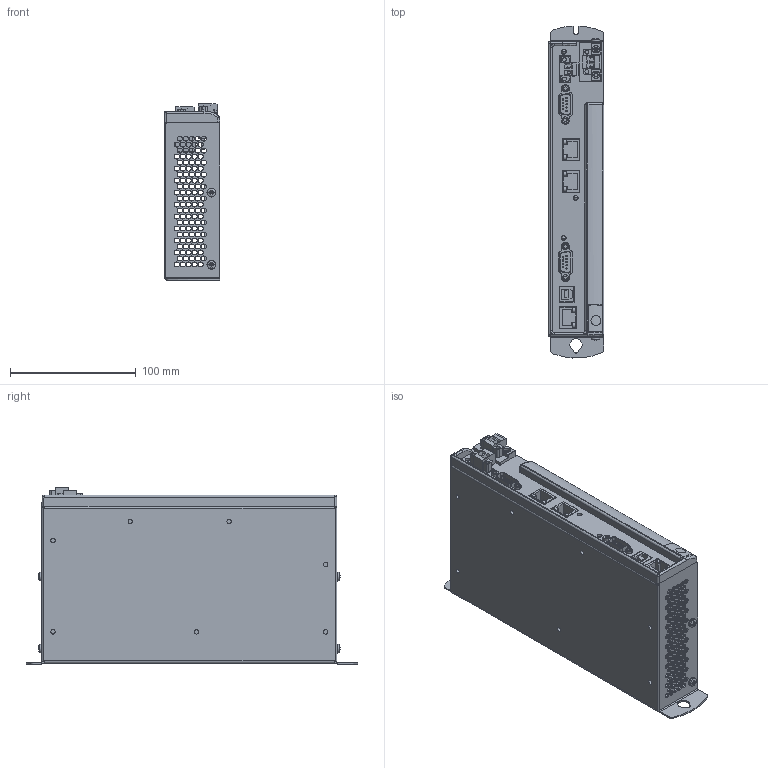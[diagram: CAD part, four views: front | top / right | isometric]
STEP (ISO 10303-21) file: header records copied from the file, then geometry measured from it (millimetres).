
FILE_DESCRIPTION((''),'2;1');
FILE_NAME('ACR9040_EPL','2007-05-01T',('JOHNB'),('Ultra Tool'),'PRO/ENGINEER BY PARAMETRIC TECHNOLOGY CORPORATION, 2005380','PRO/ENGINEER BY PARAMETRIC TECHNOLOGY CORPORATION, 2005380','');
FILE_SCHEMA(('CONFIG_CONTROL_DESIGN'));
Length unit declared in the file: inch
Products named in the file (1): ACR9040_EPL
Bounding box: 44.45 x 264.52 x 140.36 mm (x, y, z)
Volume: 175216.8 mm3; surface area: 213696.4 mm2
Topology: 12 solids, 12 shells, 1507 faces, 3991 edges, 2522 vertices
Faces by surface type: cylinder 788, plane 567, bspline 87, cone 38, sphere 27
Entity records: 61531 total; most frequent: CARTESIAN_POINT 11733, DIRECTION 8160, ORIENTED_EDGE 7810, EDGE_CURVE 3905, AXIS2_PLACEMENT_3D 3069, VERTEX_POINT 2598, EDGE_LOOP 2103, VECTOR 2022
